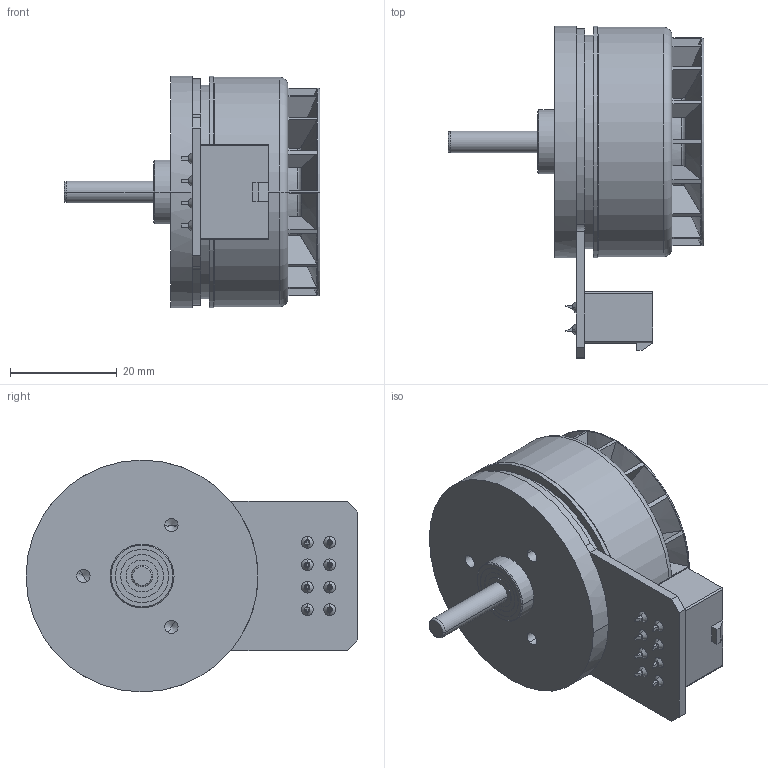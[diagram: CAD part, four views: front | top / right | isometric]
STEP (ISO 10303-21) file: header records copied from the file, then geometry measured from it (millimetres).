
FILE_DESCRIPTION((''),'2;1');
FILE_NAME('4570016','2020-04-20T',('MMAGVISI'),(''),'CREO PARAMETRIC BY PTC INC, 2017300','CREO PARAMETRIC BY PTC INC, 2017300','');
FILE_SCHEMA(('CONFIG_CONTROL_DESIGN'));
Length unit declared in the file: millimetre
Products named in the file (1): 4570016
Bounding box: 48 x 62.25 x 43.5 mm (x, y, z)
Volume: 35199 mm3; surface area: 13162.6 mm2
Topology: 1 solids, 1 shells, 415 faces, 1091 edges, 703 vertices
Faces by surface type: plane 238, cylinder 105, cone 44, torus 24, revolution 4
Entity records: 16254 total; most frequent: CARTESIAN_POINT 2341, DIRECTION 2255, ORIENTED_EDGE 2170, PRESENTATION_STYLE_ASSIGNMENT 1086, STYLED_ITEM 1086, CURVE_STYLE 1085, EDGE_CURVE 1085, AXIS2_PLACEMENT_3D 775
